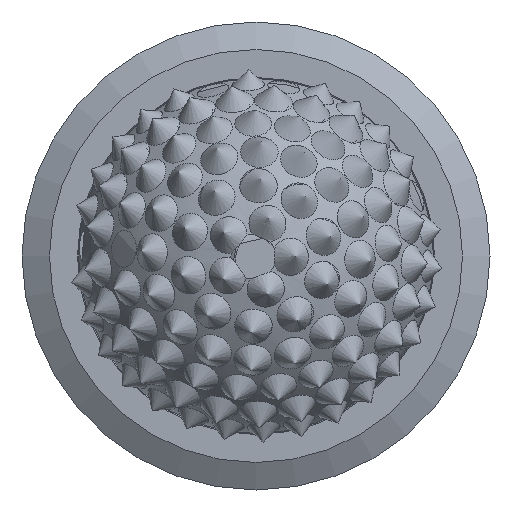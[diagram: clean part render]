
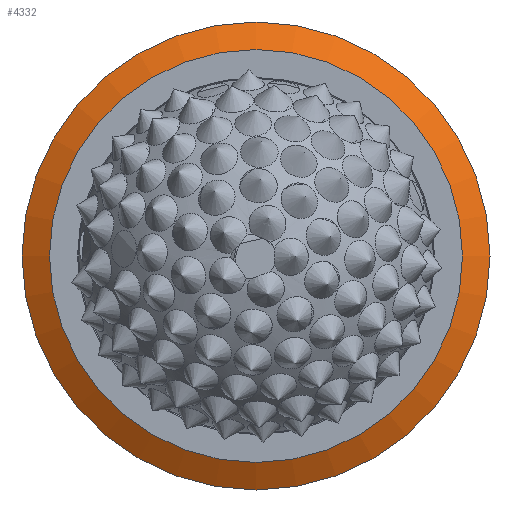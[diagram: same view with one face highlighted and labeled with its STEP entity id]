
A CAD part, left-side view. The second image highlights one B-rep face of the part: STEP entity #4332.
In plain terms, the highlighted conical face has half-angle 60 degrees and reference radius 13.884 mm.
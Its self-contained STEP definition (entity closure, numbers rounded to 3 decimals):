
#78=CONICAL_SURFACE('',#4636,13.884,1.047);
#332=LINE('',#6248,#531);
#531=VECTOR('',#5128,13.884);
#1075=FACE_OUTER_BOUND('',#1344,.T.);
#1344=EDGE_LOOP('',(#3030,#3031,#3032,#3033));
#1700=CIRCLE('',#4635,13.018);
#1701=CIRCLE('',#4637,14.75);
#1803=VERTEX_POINT('',#6243);
#1804=VERTEX_POINT('',#6246);
#2332=EDGE_CURVE('',#1803,#1803,#1700,.T.);
#2333=EDGE_CURVE('',#1804,#1804,#1701,.T.);
#2334=EDGE_CURVE('',#1804,#1803,#332,.T.);
#3030=ORIENTED_EDGE('',*,*,#2333,.F.);
#3031=ORIENTED_EDGE('',*,*,#2334,.T.);
#3032=ORIENTED_EDGE('',*,*,#2332,.T.);
#3033=ORIENTED_EDGE('',*,*,#2334,.F.);
#4332=ADVANCED_FACE('',(#1075),#78,.T.);
#4635=AXIS2_PLACEMENT_3D('',#6244,#5122,#5123);
#4636=AXIS2_PLACEMENT_3D('',#6245,#5124,#5125);
#4637=AXIS2_PLACEMENT_3D('',#6247,#5126,#5127);
#5122=DIRECTION('center_axis',(1.,0.,0.));
#5123=DIRECTION('ref_axis',(0.,0.,-1.));
#5124=DIRECTION('center_axis',(1.,0.,0.));
#5125=DIRECTION('ref_axis',(0.,1.,0.));
#5126=DIRECTION('center_axis',(1.,0.,0.));
#5127=DIRECTION('ref_axis',(0.,0.,-1.));
#5128=DIRECTION('',(-0.5,0.866,0.));
#6243=CARTESIAN_POINT('',(778.334,35.542,-0.001));
#6244=CARTESIAN_POINT('Origin',(778.334,48.56,-0.001));
#6245=CARTESIAN_POINT('Origin',(778.834,48.56,-0.001));
#6246=CARTESIAN_POINT('',(779.334,33.81,-0.001));
#6247=CARTESIAN_POINT('Origin',(779.334,48.56,-0.001));
#6248=CARTESIAN_POINT('',(778.834,34.676,-0.001));
